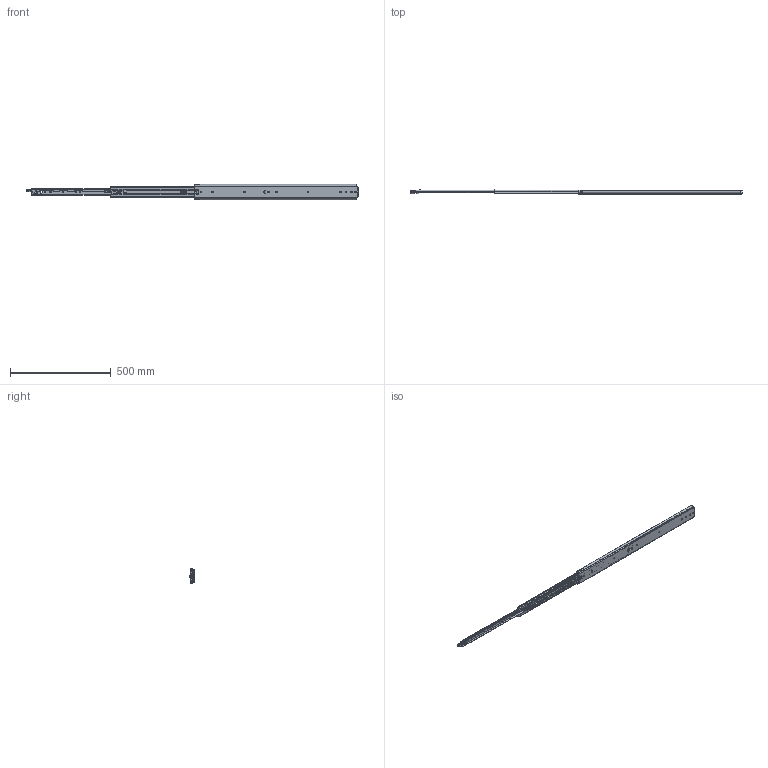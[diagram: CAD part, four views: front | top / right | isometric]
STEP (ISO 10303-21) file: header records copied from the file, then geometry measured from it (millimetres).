
FILE_DESCRIPTION((''),'2;1');
FILE_NAME('DG-76-3S-32YOU_ASM','2023-05-10T',('jishu015'),(''),'PRO/ENGINEER BY PARAMETRIC TECHNOLOGY CORPORATION, 2010280','PRO/ENGINEER BY PARAMETRIC TECHNOLOGY CORPORATION, 2010280','');
FILE_SCHEMA(('CONFIG_CONTROL_DESIGN'));
Products named in the file (29): KP-76-04WAIKE-1816_______; 1076-WAIKEZIDANJIAO16_______; WAIK16________ASM; 1076XIAOZHUTIAO-22516_______; 16_______; 1076XIAOZHUTIAO-17516________ASM; KP-76-04ZHONGGUI1816_______; 76CHANGGUIZHONGGUIJIAO16_______; 3X6WODIN16_______; ZHONGGUIBAIKOU16_______; PJ-76-30______; PJ-76-03______; 76-XIAOZHUJIA-11______; GANGZHU-XIAO______; ZHUJIA-XIAO_______ASM; ZHONGGUI6________ASM; KP-76-04NEIGUI1816_______; PJ-76-31______; DAOGPIAN16_______; 1053-3SBANJ01______; JIAO-11______; 76XINSUOKOU______; PJ-338______; PJ-356______; PJ-357______; PJ-336______; M4X4______; NEIGUI16________ASM; DG-76-3S-32YOU_ASM
Assembly tree (70 placements, depth 4):
  DG-76-3S-32YOU_ASM
    WAIK16________ASM
      KP-76-04WAIKE-1816_______
      1076-WAIKEZIDANJIAO16_______  x2
    1076XIAOZHUTIAO-17516________ASM  x2
      1076XIAOZHUTIAO-22516_______
      16_______
    ZHONGGUI6________ASM
      KP-76-04ZHONGGUI1816_______
      76CHANGGUIZHONGGUIJIAO16_______
      3X6WODIN16_______
      ZHONGGUIBAIKOU16_______
      PJ-76-30______
      PJ-76-03______
      ZHUJIA-XIAO_______ASM
        76-XIAOZHUJIA-11______
        GANGZHU-XIAO______  x28
    NEIGUI16________ASM
      KP-76-04NEIGUI1816_______
      PJ-76-31______
      DAOGPIAN16_______
      1053-3SBANJ01______
      JIAO-11______
      76XINSUOKOU______
      PJ-338______
      PJ-356______
      PJ-357______
      PJ-336______
      M4X4______
Bounding box: 1651.52 x 20.7 x 75.3 mm (x, y, z)
Volume: 534504.8 mm3; surface area: 514847.5 mm2
Topology: 80 solids, 80 shells, 2079 faces, 6246 edges, 3962 vertices
Faces by surface type: plane 1069, cylinder 764, sphere 119, bspline 60, cone 28, extrusion 23, torus 16
Entity records: 68190 total; most frequent: CARTESIAN_POINT 18427, ORIENTED_EDGE 10824, DIRECTION 9899, EDGE_CURVE 5412, VERTEX_POINT 3526, AXIS2_PLACEMENT_3D 3405, VECTOR 3089, LINE 3066
